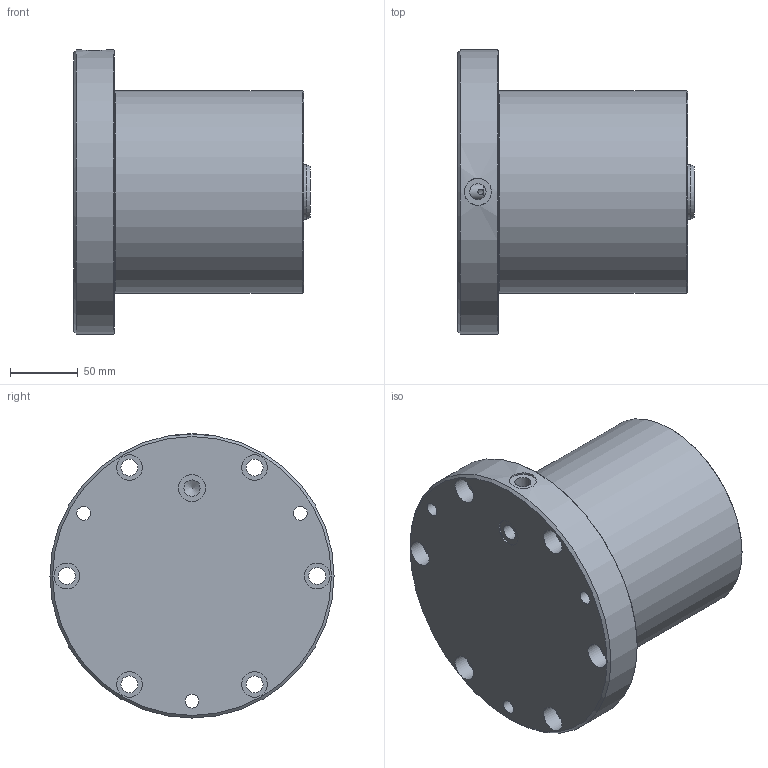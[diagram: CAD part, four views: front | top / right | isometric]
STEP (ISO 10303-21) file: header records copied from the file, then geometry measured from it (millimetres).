
FILE_DESCRIPTION( ( 'Unknown' ), '1' );
FILE_NAME( 'F:/JAKOB-STEP+IGES-Dateien/STEP-Dateien/ZDF/ZDFu 16000.stp', 'Unknown', ( 'Unknown' ), ( 'Unknown' ), 'XStep 1.0', 'Unknown', ' ' );
FILE_SCHEMA( ( 'CONFIG_CONTROL_DESIGN' ) );
Length unit declared in the file: millimetre
Products named in the file (1): 1
Bounding box: 175 x 210 x 210 mm (x, y, z)
Volume: 3468896.4 mm3; surface area: 165352.5 mm2
Topology: 1 solids, 1 shells, 44 faces, 94 edges, 61 vertices
Faces by surface type: cylinder 23, plane 12, cone 8, torus 1
Full cylindrical faces by diameter (mm): 4 x1, 10.2 x3, 12 x2, 12.5 x6, 19 x6, 20 x2, 40 x1, 150 x1, 210 x1
Entity records: 1227 total; most frequent: CARTESIAN_POINT 346, DIRECTION 186, ORIENTED_EDGE 104, EDGE_LOOP 103, AXIS2_PLACEMENT_3D 93, FACE_OUTER_BOUND 67, VERTEX_POINT 52, EDGE_CURVE 52
